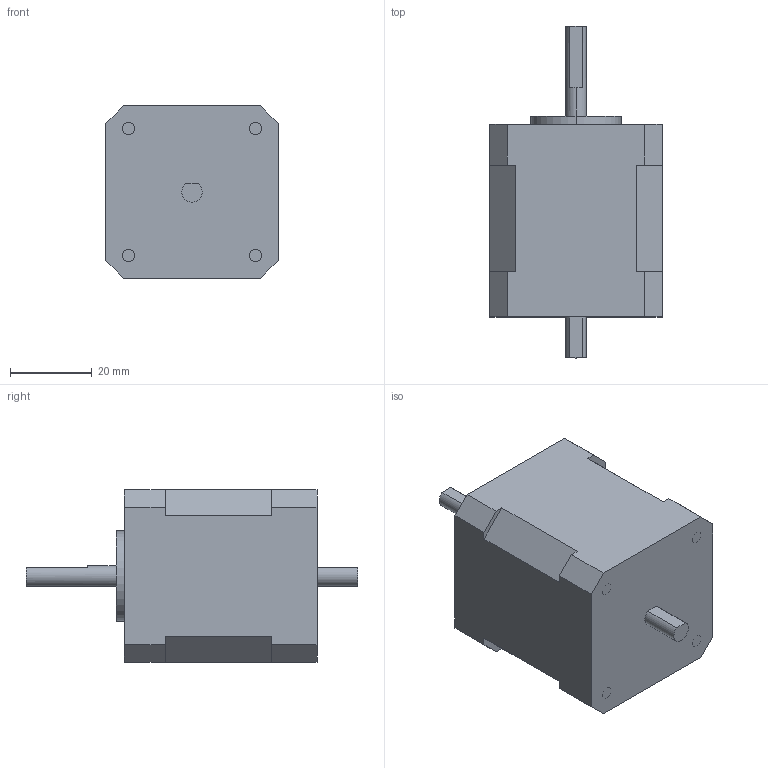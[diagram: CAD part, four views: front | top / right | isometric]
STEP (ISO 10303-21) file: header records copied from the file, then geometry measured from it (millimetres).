
FILE_DESCRIPTION (( 'STEP AP214' ), '1' );
FILE_NAME ('42HS47-DC0524-034.STEP', '2020-12-21T03:02:10', ( '' ), ( '' ), 'SwSTEP 2.0', 'SolidWorks 2020', '' );
FILE_SCHEMA (( 'AUTOMOTIVE_DESIGN' ));
Length unit declared in the file: millimetre
Products named in the file (1): 42HS47-DC0524-034
Bounding box: 42 x 81 x 42 mm (x, y, z)
Volume: 80208 mm3; surface area: 13252 mm2
Topology: 1 solids, 1 shells, 49 faces, 120 edges, 80 vertices
Faces by surface type: plane 36, cylinder 13
Entity records: 1476 total; most frequent: CARTESIAN_POINT 250, DIRECTION 248, ORIENTED_EDGE 240, EDGE_CURVE 120, VECTOR 92, LINE 92, VERTEX_POINT 80, AXIS2_PLACEMENT_3D 78
